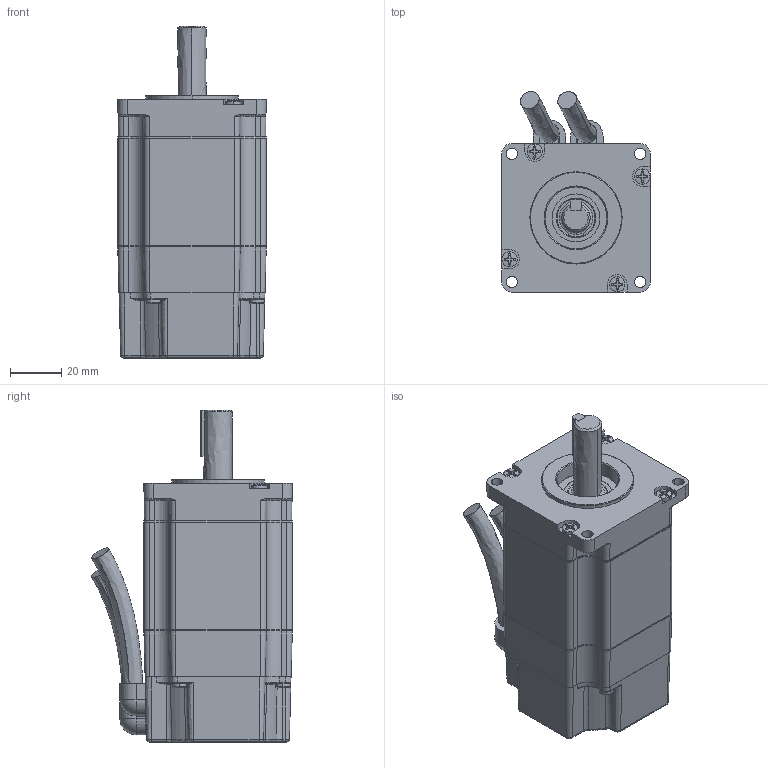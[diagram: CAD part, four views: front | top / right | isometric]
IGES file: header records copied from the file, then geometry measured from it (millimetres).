
Start section:  PTC IGES file: vlm21a.igs
Global section: file name: vlm21a.igs; native system: Pro/ENGINEER by Parametric Technology Corporation; preprocessor: 2006510; author: Ray.Dobbins; organization: Unknown; date: 20110715.092109; units: inch
Bounding box: 57.91 x 78.26 x 129.47 mm (x, y, z)
Surface area: 107596 mm2 (no closed solid volume)
Topology: 0 solids, 0 shells, 1827 faces, 9671 edges, 9661 vertices
Faces by surface type: revolution 1055, bspline 772
